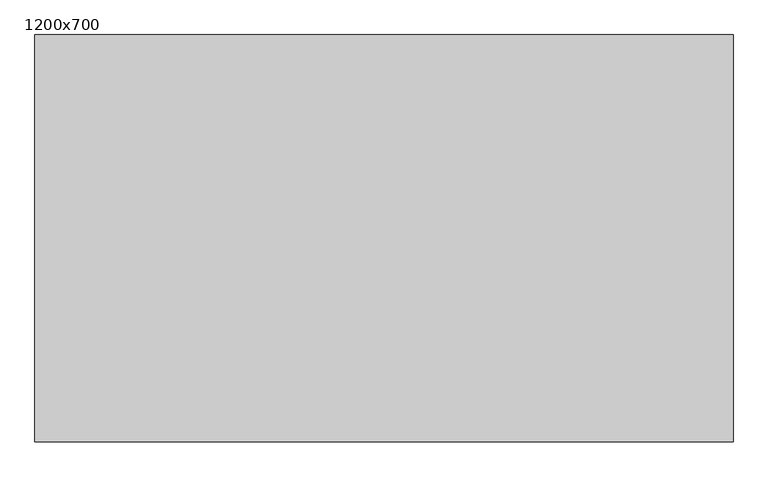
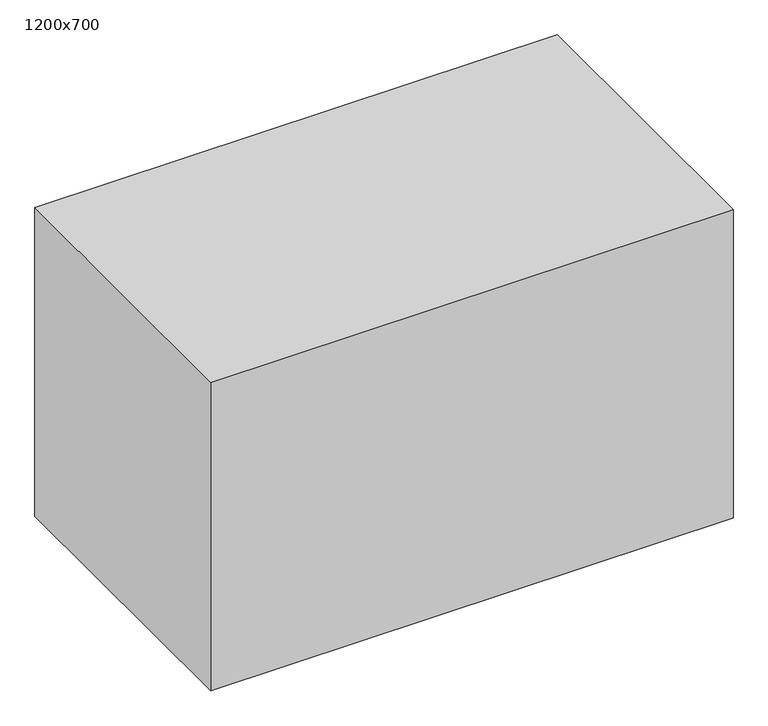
"""IFC4 building model written with IfcOpenShell, lengths in millimetres: furniture geometry, Fu_стол рабочий : 1200x700."""

from ifc_helpers import new_model, si_unit, origin, origin_with_axes, place, context, project, spatial, polyline, outline, extrude, source, transform, mapped, element, save


def furniture_1200x700_3ee393f8(model_context):
    return source(origin(), model_context, "Body", "SweptSolid", [
        extrude(outline(polyline([(373.401892, 1616.7939624), (373.401892, 916.7939624), (-826.598108, 916.7939624), (-826.598108, 1616.7939624), (373.401892, 1616.7939624)])), origin_with_axes(), (0.0, 0.0, 1.0), 750.0),
    ])


if __name__ == "__main__":
    model = new_model("IFC4")
    model_context = context("Model", 3, world=origin())
    ifc_project = project(units=[si_unit("LENGTHUNIT", "METRE", prefix="MILLI")], contexts=[model_context])
    site = spatial("IfcSite", under=ifc_project)
    building = spatial("IfcBuilding", under=site)
    placement = place(None, origin())
    furniture_1200x700_shape = furniture_1200x700_3ee393f8(model_context)
    element("IfcFurniture", 1, ObjectType="Fu_стол рабочий : 1200x700", at=placement, inside=building, context=model_context, shape_type="MappedRepresentation", body=[
        mapped(furniture_1200x700_shape, transform((0.0, 0.0, 0.0), x_axis=(1.0, 0.0, 0.0), y_axis=(0.0, 1.0, 0.0), z_axis=(0.0, 0.0, 1.0))),
    ])
    save(model, "model.ifc")
